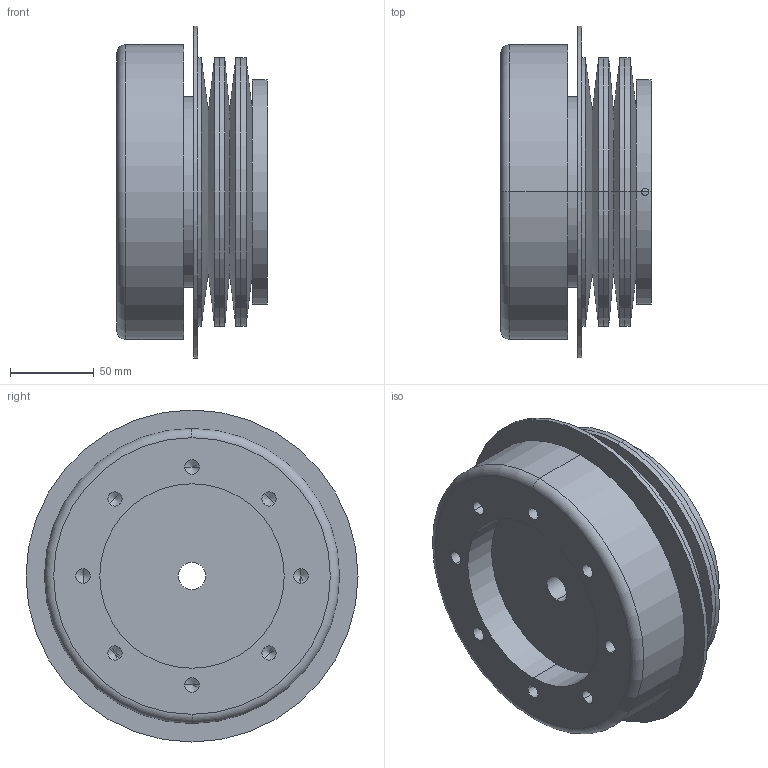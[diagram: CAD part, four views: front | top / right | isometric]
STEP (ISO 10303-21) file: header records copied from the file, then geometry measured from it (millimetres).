
FILE_DESCRIPTION (( 'STEP AP203' ), '1' );
FILE_NAME ('ST11C-65B.STEP', '2009-09-30T17:49:22', ( 'USER' ), ( 'HOME' ), 'SwSTEP 2.0', 'SolidWorks 2007', '' );
FILE_SCHEMA (( 'CONFIG_CONTROL_DESIGN' ));
Length unit declared in the file: millimetre
Products named in the file (1): ST11C-65B
Bounding box: 90 x 198 x 198 mm (x, y, z)
Volume: 1444597.1 mm3; surface area: 303999.9 mm2
Topology: 7 solids, 7 shells, 103 faces, 232 edges, 128 vertices
Faces by surface type: cylinder 56, cone 36, plane 9, torus 2
Entity records: 3049 total; most frequent: CARTESIAN_POINT 684, DIRECTION 522, ORIENTED_EDGE 432, EDGE_CURVE 216, AXIS2_PLACEMENT_3D 214, VERTEX_POINT 128, EDGE_LOOP 122, CIRCLE 110
